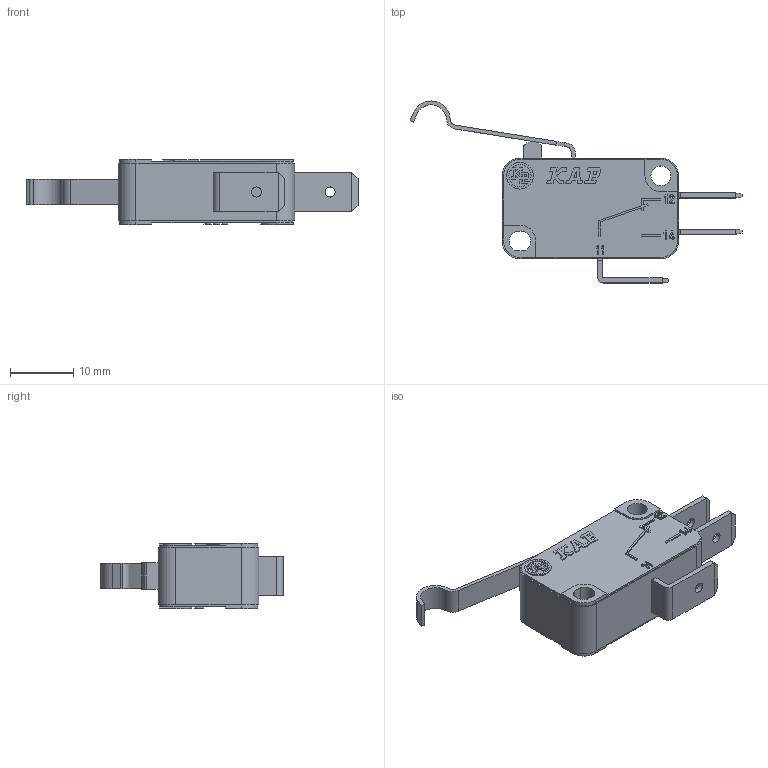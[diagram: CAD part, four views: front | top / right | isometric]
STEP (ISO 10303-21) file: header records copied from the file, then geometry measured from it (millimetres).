
FILE_DESCRIPTION(('Microrutor Miniatura Alavanca c/ Roldana Simulada'),'2;1');
FILE_NAME('E:\WorkFolder\Bibl\3DWeb\kp_mv_mv$d2fa$_step.stp','2011-05-18T16:08:17',('DIE'),('KAP'),'Autodesk Inventor 2011','Autodesk Inventor 2011','Direitos reservados. Proibido reproducao, cedencia ou revelacao de conteudo a terceiros, salvo com autorizacao.');
FILE_SCHEMA(('AUTOMOTIVE_DESIGN { 1 0 10303 214 1 1 1 1 }'));
Length unit declared in the file: millimetre
Products named in the file (1): Part7
Bounding box: 52.34 x 28.7 x 10.3 mm (x, y, z)
Volume: 4338.7 mm3; surface area: 2723.9 mm2
Topology: 1 solids, 1 shells, 383 faces, 1031 edges, 684 vertices
Faces by surface type: plane 321, cylinder 62
Full cylindrical faces by diameter (mm): 1.6 x3, 3.1 x1, 4.2 x1
Entity records: 11850 total; most frequent: CARTESIAN_POINT 2087, ORIENTED_EDGE 2046, DIRECTION 1915, EDGE_CURVE 1023, VECTOR 899, LINE 899, VERTEX_POINT 680, AXIS2_PLACEMENT_3D 508
